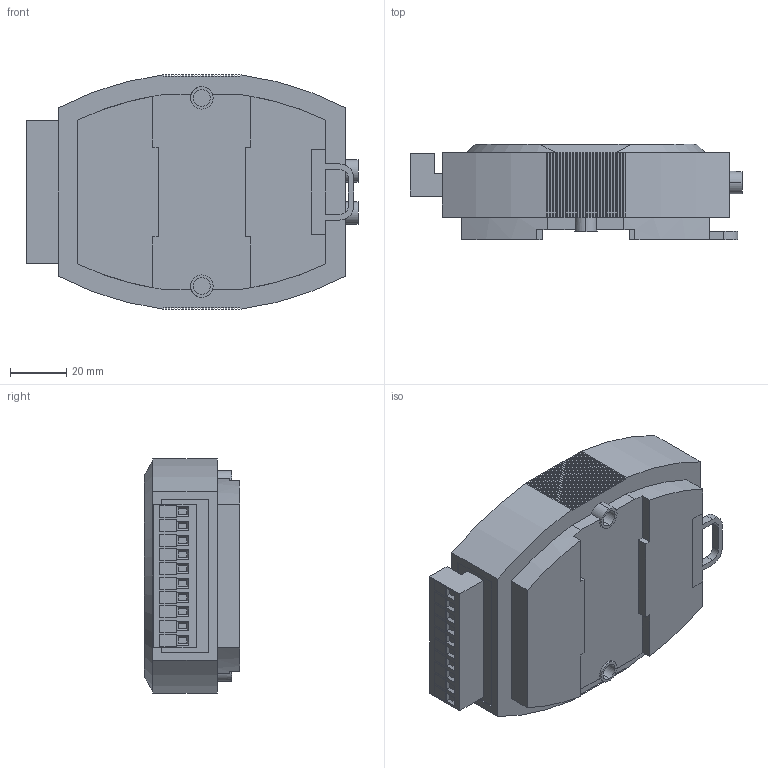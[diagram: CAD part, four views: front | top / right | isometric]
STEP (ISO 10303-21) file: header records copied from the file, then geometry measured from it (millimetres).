
FILE_DESCRIPTION (( 'STEP AP203' ), '1' );
FILE_NAME ('FBR-SERIAL-mm-fc.STEP', '2017-12-14T07:02:17', ( '' ), ( '' ), 'SwSTEP 2.0', 'SolidWorks 2013', '' );
FILE_SCHEMA (( 'CONFIG_CONTROL_DESIGN' ));
Length unit declared in the file: millimetre
Products named in the file (3): mm-fc; slotted pan head screw_iso_ISO 1580 - M1.6 x 4 --- 4C; FBR-SERIAL-mm-fc
Assembly tree (11 placements, depth 2):
  FBR-SERIAL-mm-fc
    mm-fc
    slotted pan head screw_iso_ISO 1580 - M1.6 x 4 --- 4C  x10
Bounding box: 118.4 x 34 x 83.5 mm (x, y, z)
Volume: 239605.9 mm3; surface area: 33225.9 mm2
Topology: 12 solids, 12 shells, 820 faces, 2600 edges, 1976 vertices
Faces by surface type: plane 694, cylinder 84, torus 20, cone 20, bspline 2
Entity records: 31193 total; most frequent: CARTESIAN_POINT 10112, ORIENTED_EDGE 4696, DIRECTION 3534, EDGE_CURVE 2348, VERTEX_POINT 1814, VECTOR 1766, LINE 1766, AXIS2_PLACEMENT_3D 884
